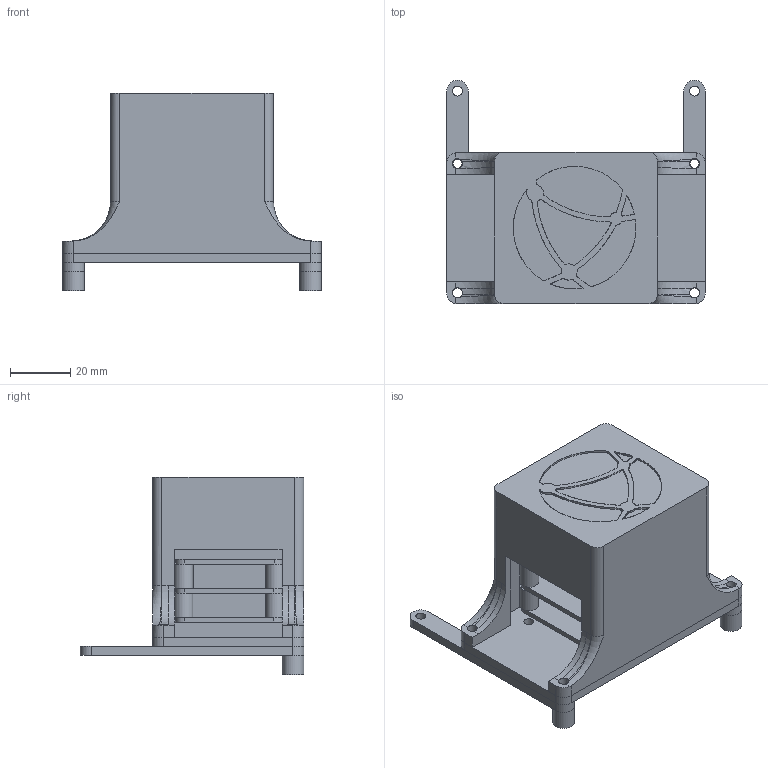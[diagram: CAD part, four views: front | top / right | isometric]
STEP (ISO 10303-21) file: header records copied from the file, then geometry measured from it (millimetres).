
FILE_DESCRIPTION(/* description */ (''),/* implementation_level */ '2;1');
FILE_NAME(/* name */ 'ControllerCasing v4.step',/* time_stamp */ '2023-08-25T16:42:37+03:00',/* author */ (''),/* organization */ (''),/* preprocessor_version */ 'ST-DEVELOPER v20',/* originating_system */ 'Autodesk Translation Framework v12.9.0.99',/* authorisation */ '');
FILE_SCHEMA (('AUTOMOTIVE_DESIGN { 1 0 10303 214 3 1 1 }'));
Length unit declared in the file: millimetre
Products named in the file (7): StackControllerCasing; StackController; StandoffLayer; PCB_UsbToSerial; StandoffLayer_1; Spacer; PCB_V1
Assembly tree (14 placements, depth 4):
  StackControllerCasing
    StackController
      PCB_V1  x2
      StandoffLayer
        Spacer  x4
      PCB_UsbToSerial
      StandoffLayer_1
        Spacer  x4
Bounding box: 85.7 x 74.02 x 65.5 mm (x, y, z)
Volume: 52399.9 mm3; surface area: 50956.8 mm2
Topology: 17 solids, 17 shells, 731 faces, 2081 edges, 1386 vertices
Faces by surface type: bspline 551, cylinder 86, plane 86, torus 8
Full cylindrical faces by diameter (mm): 3 x2, 3.084 x12, 3.3 x26, 6.3 x8, 7.2 x2
Entity records: 24839 total; most frequent: CARTESIAN_POINT 11082, ORIENTED_EDGE 4006, EDGE_CURVE 2003, DIRECTION 1631, VERTEX_POINT 1334, EDGE_LOOP 749, LINE 737, VECTOR 737
